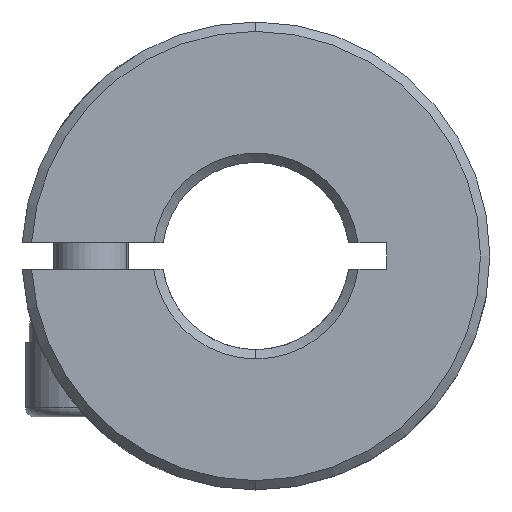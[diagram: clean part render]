
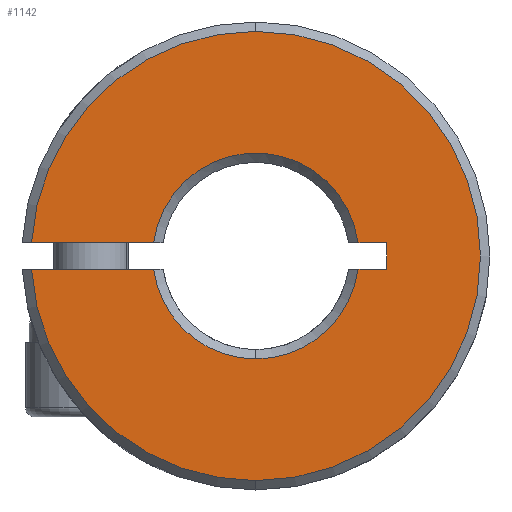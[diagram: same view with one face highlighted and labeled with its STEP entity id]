
A CAD part, front view. The second image highlights one B-rep face of the part: STEP entity #1142.
In plain terms, the highlighted planar face has unit normal (0, -1, 0).
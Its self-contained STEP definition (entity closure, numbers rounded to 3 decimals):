
#26 = CARTESIAN_POINT ( 'NONE',  ( 0., 0.25, -12. ) ) ;
#120 = DIRECTION ( 'NONE',  ( 0., 0., 1. ) ) ;
#128 = CIRCLE ( 'NONE', #3156, 5.5 ) ;
#132 = AXIS2_PLACEMENT_3D ( 'NONE', #1559, #4987, #605 ) ;
#215 = VERTEX_POINT ( 'NONE', #1557 ) ;
#228 = DIRECTION ( 'NONE',  ( 0., 0., 1. ) ) ;
#259 = PLANE ( 'NONE',  #4832 ) ;
#340 = ORIENTED_EDGE ( 'NONE', *, *, #786, .F. ) ;
#493 = VECTOR ( 'NONE', #4226, 1000. ) ;
#552 = CARTESIAN_POINT ( 'NONE',  ( -11.98, 0.25, 0.7 ) ) ;
#605 = DIRECTION ( 'NONE',  ( 0., 0., 1. ) ) ;
#786 = EDGE_CURVE ( 'NONE', #1447, #2045, #6247, .T. ) ;
#803 = CARTESIAN_POINT ( 'NONE',  ( 0., 0.25, 0. ) ) ;
#1142 = ADVANCED_FACE ( 'NONE', ( #5867 ), #259, .F. ) ;
#1146 = DIRECTION ( 'NONE',  ( 0., 0., 1. ) ) ;
#1343 = DIRECTION ( 'NONE',  ( 0., 0., 1. ) ) ;
#1430 = DIRECTION ( 'NONE',  ( 0., 0., 1. ) ) ;
#1447 = VERTEX_POINT ( 'NONE', #3551 ) ;
#1455 = VERTEX_POINT ( 'NONE', #4483 ) ;
#1510 = ORIENTED_EDGE ( 'NONE', *, *, #1660, .F. ) ;
#1555 = CARTESIAN_POINT ( 'NONE',  ( 0., 0.25, 0. ) ) ;
#1557 = CARTESIAN_POINT ( 'NONE',  ( 5.455, 0.25, -0.7 ) ) ;
#1559 = CARTESIAN_POINT ( 'NONE',  ( 0., 0.25, 0. ) ) ;
#1575 = DIRECTION ( 'NONE',  ( 0., 0., 1. ) ) ;
#1660 = EDGE_CURVE ( 'NONE', #215, #4208, #3079, .T. ) ;
#1722 = EDGE_CURVE ( 'NONE', #1455, #4201, #4450, .T. ) ;
#1765 = VECTOR ( 'NONE', #2948, 1000. ) ;
#1900 = EDGE_CURVE ( 'NONE', #2486, #2045, #128, .T. ) ;
#2045 = VERTEX_POINT ( 'NONE', #4905 ) ;
#2074 = DIRECTION ( 'NONE',  ( 0., -1., 0. ) ) ;
#2164 = LINE ( 'NONE', #4343, #2994 ) ;
#2174 = EDGE_LOOP ( 'NONE', ( #1510, #5306, #3510, #4852, #4665, #4777, #4312, #2348, #4369, #340, #4123 ) ) ;
#2348 = ORIENTED_EDGE ( 'NONE', *, *, #2658, .F. ) ;
#2486 = VERTEX_POINT ( 'NONE', #5239 ) ;
#2499 = CARTESIAN_POINT ( 'NONE',  ( -12.75, 0.25, -0.7 ) ) ;
#2640 = CARTESIAN_POINT ( 'NONE',  ( 0., 0.25, 0. ) ) ;
#2658 = EDGE_CURVE ( 'NONE', #2486, #5045, #4058, .T. ) ;
#2744 = CARTESIAN_POINT ( 'NONE',  ( -12.75, 0.25, 0.7 ) ) ;
#2751 = AXIS2_PLACEMENT_3D ( 'NONE', #4267, #4767, #3206 ) ;
#2814 = EDGE_CURVE ( 'NONE', #215, #5913, #5387, .T. ) ;
#2860 = EDGE_CURVE ( 'NONE', #4201, #4261, #5915, .T. ) ;
#2931 = CARTESIAN_POINT ( 'NONE',  ( -5.455, 0.25, -0.7 ) ) ;
#2948 = DIRECTION ( 'NONE',  ( 1., 0., 0. ) ) ;
#2994 = VECTOR ( 'NONE', #1430, 1000. ) ;
#3062 = CARTESIAN_POINT ( 'NONE',  ( 7., 0.25, -0.7 ) ) ;
#3079 = LINE ( 'NONE', #5690, #493 ) ;
#3118 = AXIS2_PLACEMENT_3D ( 'NONE', #2640, #3522, #228 ) ;
#3156 = AXIS2_PLACEMENT_3D ( 'NONE', #803, #4218, #1343 ) ;
#3162 = EDGE_CURVE ( 'NONE', #4208, #1447, #2164, .T. ) ;
#3206 = DIRECTION ( 'NONE',  ( 0., 0., 1. ) ) ;
#3301 = CIRCLE ( 'NONE', #3118, 5.5 ) ;
#3510 = ORIENTED_EDGE ( 'NONE', *, *, #4564, .T. ) ;
#3522 = DIRECTION ( 'NONE',  ( 0., 1., 0. ) ) ;
#3525 = VECTOR ( 'NONE', #6243, 1000. ) ;
#3551 = CARTESIAN_POINT ( 'NONE',  ( 7., 0.25, 0.7 ) ) ;
#3719 = DIRECTION ( 'NONE',  ( -1., 0., 0. ) ) ;
#4034 = DIRECTION ( 'NONE',  ( 0., 1., 0. ) ) ;
#4058 = LINE ( 'NONE', #4775, #3525 ) ;
#4082 = CARTESIAN_POINT ( 'NONE',  ( 0., 0.25, 0. ) ) ;
#4123 = ORIENTED_EDGE ( 'NONE', *, *, #3162, .F. ) ;
#4201 = VERTEX_POINT ( 'NONE', #26 ) ;
#4208 = VERTEX_POINT ( 'NONE', #3062 ) ;
#4218 = DIRECTION ( 'NONE',  ( 0., 1., 0. ) ) ;
#4226 = DIRECTION ( 'NONE',  ( 1., 0., 0. ) ) ;
#4261 = VERTEX_POINT ( 'NONE', #6281 ) ;
#4267 = CARTESIAN_POINT ( 'NONE',  ( 0., 0.25, 0. ) ) ;
#4312 = ORIENTED_EDGE ( 'NONE', *, *, #6179, .T. ) ;
#4343 = CARTESIAN_POINT ( 'NONE',  ( 7., 0.25, 0.7 ) ) ;
#4369 = ORIENTED_EDGE ( 'NONE', *, *, #1900, .T. ) ;
#4391 = EDGE_CURVE ( 'NONE', #1455, #5399, #5773, .T. ) ;
#4408 = CIRCLE ( 'NONE', #132, 12. ) ;
#4450 = CIRCLE ( 'NONE', #2751, 12. ) ;
#4483 = CARTESIAN_POINT ( 'NONE',  ( -11.98, 0.25, -0.7 ) ) ;
#4543 = DIRECTION ( 'NONE',  ( 0., 1., 0. ) ) ;
#4564 = EDGE_CURVE ( 'NONE', #5913, #5399, #3301, .T. ) ;
#4583 = CARTESIAN_POINT ( 'NONE',  ( -500., 0.25, -13.609 ) ) ;
#4665 = ORIENTED_EDGE ( 'NONE', *, *, #1722, .T. ) ;
#4767 = DIRECTION ( 'NONE',  ( 0., -1., 0. ) ) ;
#4775 = CARTESIAN_POINT ( 'NONE',  ( -12.75, 0.25, 0.7 ) ) ;
#4777 = ORIENTED_EDGE ( 'NONE', *, *, #2860, .T. ) ;
#4832 = AXIS2_PLACEMENT_3D ( 'NONE', #4583, #4543, #1146 ) ;
#4852 = ORIENTED_EDGE ( 'NONE', *, *, #4391, .F. ) ;
#4905 = CARTESIAN_POINT ( 'NONE',  ( 5.455, 0.25, 0.7 ) ) ;
#4926 = VECTOR ( 'NONE', #3719, 1000. ) ;
#4987 = DIRECTION ( 'NONE',  ( 0., -1., 0. ) ) ;
#5045 = VERTEX_POINT ( 'NONE', #552 ) ;
#5239 = CARTESIAN_POINT ( 'NONE',  ( -5.455, 0.25, 0.7 ) ) ;
#5306 = ORIENTED_EDGE ( 'NONE', *, *, #2814, .T. ) ;
#5387 = CIRCLE ( 'NONE', #5559, 5.5 ) ;
#5399 = VERTEX_POINT ( 'NONE', #2931 ) ;
#5427 = AXIS2_PLACEMENT_3D ( 'NONE', #1555, #2074, #120 ) ;
#5559 = AXIS2_PLACEMENT_3D ( 'NONE', #4082, #4034, #1575 ) ;
#5690 = CARTESIAN_POINT ( 'NONE',  ( -12.75, 0.25, -0.7 ) ) ;
#5721 = CARTESIAN_POINT ( 'NONE',  ( 0., 0.25, -5.5 ) ) ;
#5773 = LINE ( 'NONE', #2499, #1765 ) ;
#5867 = FACE_OUTER_BOUND ( 'NONE', #2174, .T. ) ;
#5913 = VERTEX_POINT ( 'NONE', #5721 ) ;
#5915 = CIRCLE ( 'NONE', #5427, 12. ) ;
#6179 = EDGE_CURVE ( 'NONE', #4261, #5045, #4408, .T. ) ;
#6243 = DIRECTION ( 'NONE',  ( -1., 0., 0. ) ) ;
#6247 = LINE ( 'NONE', #2744, #4926 ) ;
#6281 = CARTESIAN_POINT ( 'NONE',  ( 0., 0.25, 12. ) ) ;
